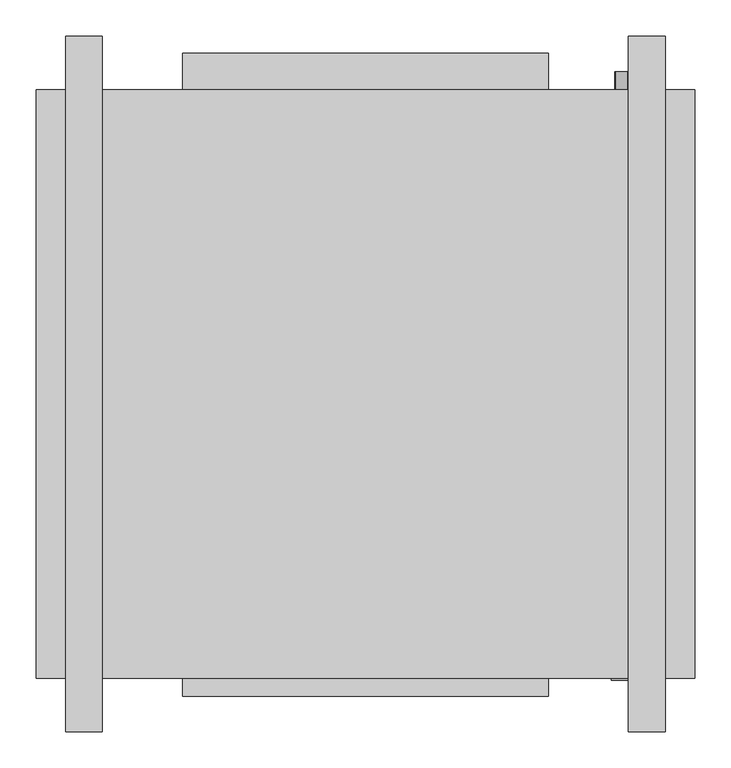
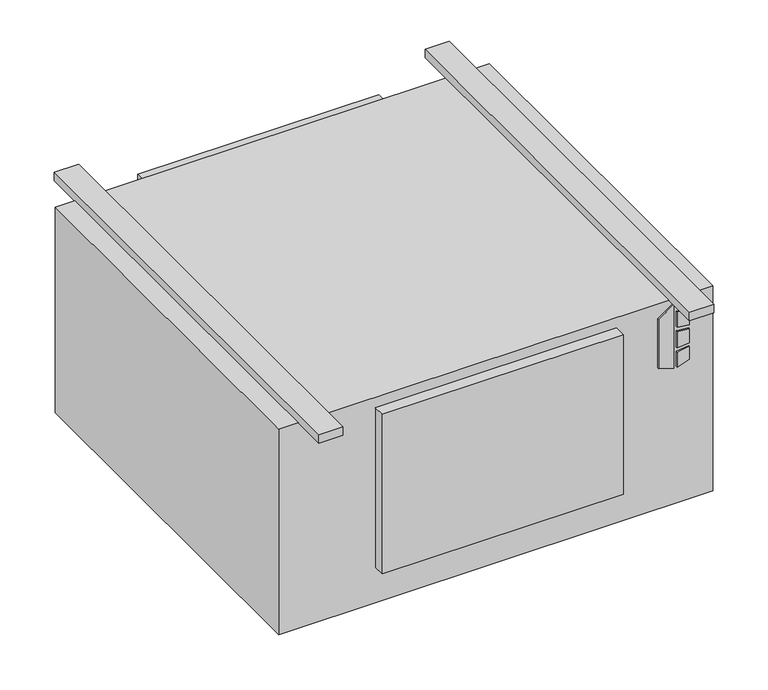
"""IFC4 building model written with IfcOpenShell, lengths in millimetres: proxy geometry, Concealed_High_Capacity_Horizontal_Cabinet_Fan_Coil_Unit_-_HXY_-_IEC_-_2-Pipe_Cool-EHeat_RH_2022 : Size 08 - 277v/60Hz/1Ph - 6 Row 6.0kW."""

from ifc_helpers import new_model, si_unit, point, frame, frame_2d, origin, origin_with_axes, place, context, project, spatial, polyline, circle_curve, trimmed, segment, composite_curve, outline, extrude, source, transform, mapped, element, save


def mechanical_equipment_74f1de3b(model_context):
    return source(origin(), model_context, "Body", "SweptSolid", [
        extrude(outline(polyline([(-142.4519297, 493.7868862), (-152.4, 525.9602728), (-10.2290756, 525.9602728), (-33.2510817, 493.7868862), (-142.4519297, 493.7868862)])), frame((0.0, -649.2875, 0.0), z_axis=(0.0, 1.0, 0.0), x_axis=(0.0, 0.0, 1.0)), (0.0, 0.0, 1.0), 3.175),
        extrude(outline(polyline([(-63.4526443, 532.7186058), (-66.6550368, 558.8), (-37.4261958, 558.8), (-29.3617807, 532.7186058), (-63.4526443, 532.7186058)])), frame((0.0, -649.2875, 0.0), z_axis=(0.0, 1.0, 0.0), x_axis=(0.0, 0.0, 1.0)), (0.0, 0.0, 1.0), 3.175),
        extrude(outline(polyline([(-115.3161712, 558.8), (-118.9816721, 532.7186058), (-152.4, 532.7186058), (-143.7657628, 558.8), (-115.3161712, 558.8)])), frame((0.0, -649.2875, 0.0), z_axis=(0.0, 1.0, 0.0), x_axis=(0.0, 0.0, 1.0)), (0.0, 0.0, 1.0), 3.175),
        extrude(outline(polyline([(-76.0010097, 558.8), (-73.7191834, 532.7186058), (-109.6567319, 532.7186058), (-106.9154669, 558.8), (-76.0010097, 558.8)])), frame((0.0, -649.2875, 0.0), z_axis=(0.0, 1.0, 0.0), x_axis=(0.0, 0.0, 1.0)), (0.0, 0.0, 1.0), 3.175),
        extrude(outline(composite_curve([segment(trimmed(circle_curve(frame_2d((-406.4, 508.0)), 9.525), [point((-406.4, 498.475))], [point((-406.4, 517.525))], False, "CARTESIAN"), True, "CONTINUOUS"), segment(trimmed(circle_curve(frame_2d((-406.4, 508.0)), 9.525), [point((-406.4, 517.525))], [point((-406.4, 498.475))], False, "CARTESIAN"), True, "CONTINUOUS")], self_intersect=False)), frame((0.0, 169.8625, 0.0), z_axis=(0.0, 1.0, 0.0), x_axis=(0.0, 0.0, 1.0)), (0.0, 0.0, 1.0), 25.4),
        extrude(outline(composite_curve([segment(trimmed(circle_curve(frame_2d((-330.2, 508.0)), 7.9375), [point((-330.2, 500.0625))], [point((-330.2, 515.9375))], False, "CARTESIAN"), True, "CONTINUOUS"), segment(trimmed(circle_curve(frame_2d((-330.2, 508.0)), 7.9375), [point((-330.2, 515.9375))], [point((-330.2, 500.0625))], False, "CARTESIAN"), True, "CONTINUOUS")], self_intersect=False)), frame((0.0, 169.8625, 0.0), z_axis=(0.0, 1.0, 0.0), x_axis=(0.0, 0.0, 1.0)), (0.0, 0.0, 1.0), 25.4),
        extrude(outline(composite_curve([segment(trimmed(circle_curve(frame_2d((-254.0, 508.0)), 7.9375), [point((-254.0, 500.0625))], [point((-254.0, 515.9375))], False, "CARTESIAN"), True, "CONTINUOUS"), segment(trimmed(circle_curve(frame_2d((-254.0, 508.0)), 7.9375), [point((-254.0, 515.9375))], [point((-254.0, 500.0625))], False, "CARTESIAN"), True, "CONTINUOUS")], self_intersect=False)), frame((0.0, 169.8625, 0.0), z_axis=(0.0, 1.0, 0.0), x_axis=(0.0, 0.0, 1.0)), (0.0, 0.0, 1.0), 25.4),
        extrude(outline(polyline([(609.6, 169.8625), (609.6, -646.1125), (-304.8, -646.1125), (-304.8, 169.8625), (609.6, 169.8625)])), frame((0.0, 0.0, -457.2), z_axis=(0.0, 0.0, 1.0), x_axis=(1.0, 0.0, 0.0)), (0.0, 0.0, 1.0), 457.2),
        extrude(outline(polyline([(-101.6, 220.6625), (406.4, 220.6625), (406.4, 169.8625), (-101.6, 169.8625), (-101.6, 220.6625)])), frame((0.0, 0.0, -377.825), z_axis=(0.0, 0.0, 1.0), x_axis=(1.0, 0.0, 0.0)), (0.0, 0.0, 1.0), 349.25),
        extrude(outline(polyline([(-212.725, 244.475), (-212.725, -720.725), (-263.525, -720.725), (-263.525, 244.475), (-212.725, 244.475)])), origin_with_axes(), (0.0, 0.0, 1.0), 19.05),
        extrude(outline(polyline([(568.325, 244.475), (568.325, -720.725), (517.525, -720.725), (517.525, 244.475), (568.325, 244.475)])), origin_with_axes(), (0.0, 0.0, 1.0), 19.05),
        extrude(outline(polyline([(406.4, -671.5125), (-101.6, -671.5125), (-101.6, -646.1125), (406.4, -646.1125), (406.4, -671.5125)])), frame((0.0, 0.0, -377.825), z_axis=(0.0, 0.0, 1.0), x_axis=(1.0, 0.0, 0.0)), (0.0, 0.0, 1.0), 355.6),
    ])


if __name__ == "__main__":
    model = new_model("IFC4")
    model_context = context("Model", 3, world=origin())
    ifc_project = project(units=[si_unit("LENGTHUNIT", "METRE", prefix="MILLI")], contexts=[model_context])
    site = spatial("IfcSite", under=ifc_project)
    building = spatial("IfcBuilding", under=site)
    placement = place(None, origin())
    mechanical_equipment_shape = mechanical_equipment_74f1de3b(model_context)
    element("IfcBuildingElementProxy", 1, Name="Concealed_High_Capacity_Horizontal_Cabinet_Fan_Coil_Unit_-_HXY_-_IEC_-_2-Pipe_Cool-EHeat_RH_2022 : Size 08 - 277v/60Hz/1Ph - 6 Row 6.0kW", ObjectType="Concealed_High_Capacity_Horizontal_Cabinet_Fan_Coil_Unit_-_HXY_-_IEC_-_2-Pipe_Cool-EHeat_RH_2022 : Size 08 - 277v/60Hz/1Ph - 6 Row 6.0kW", at=placement, inside=building, context=model_context, shape_type="MappedRepresentation", body=[
        mapped(mechanical_equipment_shape, transform((0.0, 0.0, 0.0), x_axis=(1.0, 0.0, 0.0), y_axis=(0.0, 1.0, 0.0), z_axis=(0.0, 0.0, 1.0))),
    ])
    save(model, "model.ifc")
